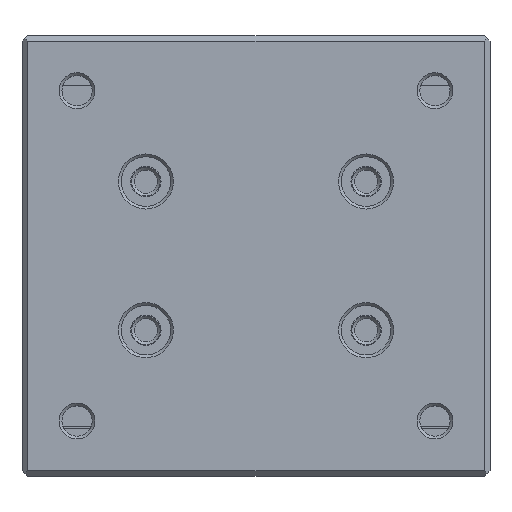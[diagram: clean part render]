
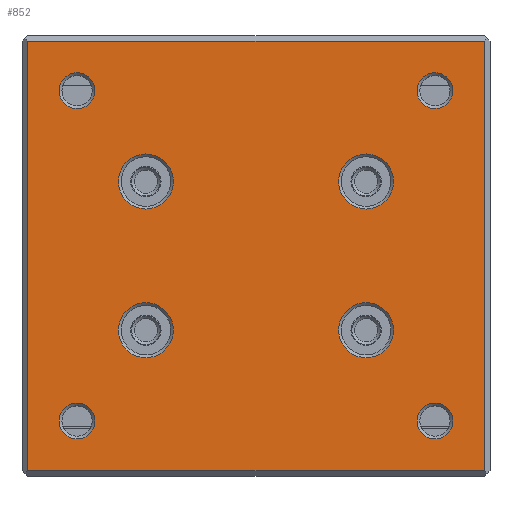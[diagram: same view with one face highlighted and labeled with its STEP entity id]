
A CAD part, top view. The second image highlights one B-rep face of the part: STEP entity #852.
In plain terms, the highlighted planar face has unit normal (0, 0, 1) as drawn and (0, 0, -1) by its records, which use the part's own axes.
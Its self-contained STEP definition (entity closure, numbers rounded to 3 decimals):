
#223=LINE('',#4925,#481);
#232=LINE('',#4943,#490);
#237=LINE('',#4953,#495);
#272=LINE('',#5035,#530);
#481=VECTOR('',#3949,1.);
#490=VECTOR('',#3962,1.);
#495=VECTOR('',#3973,1.);
#530=VECTOR('',#4048,1.);
#852=ADVANCED_FACE('',(#1183,#1184,#1185,#1186,#1187,#1188,#1189,#1190,
#1191),#1047,.F.);
#1047=PLANE('',#3534);
#1183=FACE_BOUND('',#1492,.T.);
#1184=FACE_BOUND('',#1493,.T.);
#1185=FACE_BOUND('',#1494,.T.);
#1186=FACE_BOUND('',#1495,.T.);
#1187=FACE_BOUND('',#1496,.T.);
#1188=FACE_BOUND('',#1497,.T.);
#1189=FACE_BOUND('',#1498,.T.);
#1190=FACE_BOUND('',#1499,.T.);
#1191=FACE_BOUND('',#1500,.T.);
#1492=EDGE_LOOP('',(#1967,#1968,#1969,#1970));
#1493=EDGE_LOOP('',(#1971));
#1494=EDGE_LOOP('',(#1972));
#1495=EDGE_LOOP('',(#1973));
#1496=EDGE_LOOP('',(#1974));
#1497=EDGE_LOOP('',(#1975));
#1498=EDGE_LOOP('',(#1976));
#1499=EDGE_LOOP('',(#1977));
#1500=EDGE_LOOP('',(#1978));
#1967=ORIENTED_EDGE('',*,*,#2970,.T.);
#1968=ORIENTED_EDGE('',*,*,#3016,.T.);
#1969=ORIENTED_EDGE('',*,*,#2975,.T.);
#1970=ORIENTED_EDGE('',*,*,#2961,.T.);
#1971=ORIENTED_EDGE('',*,*,#2924,.T.);
#1972=ORIENTED_EDGE('',*,*,#2923,.T.);
#1973=ORIENTED_EDGE('',*,*,#2922,.T.);
#1974=ORIENTED_EDGE('',*,*,#2921,.T.);
#1975=ORIENTED_EDGE('',*,*,#3017,.T.);
#1976=ORIENTED_EDGE('',*,*,#3018,.T.);
#1977=ORIENTED_EDGE('',*,*,#3019,.T.);
#1978=ORIENTED_EDGE('',*,*,#3020,.T.);
#2607=VERTEX_POINT('',#4837);
#2608=VERTEX_POINT('',#4840);
#2609=VERTEX_POINT('',#4843);
#2610=VERTEX_POINT('',#4846);
#2640=VERTEX_POINT('',#4924);
#2641=VERTEX_POINT('',#4926);
#2647=VERTEX_POINT('',#4942);
#2650=VERTEX_POINT('',#4954);
#2677=VERTEX_POINT('',#5037);
#2678=VERTEX_POINT('',#5039);
#2679=VERTEX_POINT('',#5041);
#2680=VERTEX_POINT('',#5043);
#2921=EDGE_CURVE('',#2607,#2607,#3325,.T.);
#2922=EDGE_CURVE('',#2608,#2608,#3326,.T.);
#2923=EDGE_CURVE('',#2609,#2609,#3327,.T.);
#2924=EDGE_CURVE('',#2610,#2610,#3328,.T.);
#2961=EDGE_CURVE('',#2641,#2640,#223,.T.);
#2970=EDGE_CURVE('',#2640,#2647,#232,.T.);
#2975=EDGE_CURVE('',#2650,#2641,#237,.T.);
#3016=EDGE_CURVE('',#2647,#2650,#272,.T.);
#3017=EDGE_CURVE('',#2677,#2677,#3339,.T.);
#3018=EDGE_CURVE('',#2678,#2678,#3340,.T.);
#3019=EDGE_CURVE('',#2679,#2679,#3341,.T.);
#3020=EDGE_CURVE('',#2680,#2680,#3342,.T.);
#3325=CIRCLE('',#3482,3.25);
#3326=CIRCLE('',#3484,3.25);
#3327=CIRCLE('',#3486,5.);
#3328=CIRCLE('',#3488,5.);
#3339=CIRCLE('',#3530,3.25);
#3340=CIRCLE('',#3531,5.);
#3341=CIRCLE('',#3532,5.);
#3342=CIRCLE('',#3533,3.25);
#3482=AXIS2_PLACEMENT_3D('',#4836,#3871,#3872);
#3484=AXIS2_PLACEMENT_3D('',#4839,#3875,#3876);
#3486=AXIS2_PLACEMENT_3D('',#4842,#3879,#3880);
#3488=AXIS2_PLACEMENT_3D('',#4845,#3883,#3884);
#3530=AXIS2_PLACEMENT_3D('',#5036,#4049,#4050);
#3531=AXIS2_PLACEMENT_3D('',#5038,#4051,#4052);
#3532=AXIS2_PLACEMENT_3D('',#5040,#4053,#4054);
#3533=AXIS2_PLACEMENT_3D('',#5042,#4055,#4056);
#3534=AXIS2_PLACEMENT_3D('',#5044,#4057,#4058);
#3871=DIRECTION('',(0.,0.,1.));
#3872=DIRECTION('',(1.,0.,0.));
#3875=DIRECTION('',(0.,0.,1.));
#3876=DIRECTION('',(1.,0.,0.));
#3879=DIRECTION('',(0.,0.,1.));
#3880=DIRECTION('',(1.,0.,0.));
#3883=DIRECTION('',(0.,0.,1.));
#3884=DIRECTION('',(1.,0.,0.));
#3949=DIRECTION('',(0.,1.,0.));
#3962=DIRECTION('',(1.,0.,0.));
#3973=DIRECTION('',(-1.,0.,0.));
#4048=DIRECTION('',(0.,-1.,0.));
#4049=DIRECTION('',(0.,0.,1.));
#4050=DIRECTION('',(1.,0.,0.));
#4051=DIRECTION('',(0.,0.,1.));
#4052=DIRECTION('',(1.,0.,0.));
#4053=DIRECTION('',(0.,0.,1.));
#4054=DIRECTION('',(1.,0.,0.));
#4055=DIRECTION('',(0.,0.,1.));
#4056=DIRECTION('',(1.,0.,0.));
#4057=DIRECTION('',(0.,0.,1.));
#4058=DIRECTION('',(1.,0.,0.));
#4836=CARTESIAN_POINT('',(30.,30.,0.));
#4837=CARTESIAN_POINT('',(33.25,30.,0.));
#4839=CARTESIAN_POINT('',(30.,-30.,0.));
#4840=CARTESIAN_POINT('',(33.25,-30.,0.));
#4842=CARTESIAN_POINT('',(42.5,-13.5,0.));
#4843=CARTESIAN_POINT('',(47.5,-13.5,0.));
#4845=CARTESIAN_POINT('',(42.5,13.5,0.));
#4846=CARTESIAN_POINT('',(47.5,13.5,0.));
#4924=CARTESIAN_POINT('',(21.,39.,0.));
#4925=CARTESIAN_POINT('',(21.,-39.,0.));
#4926=CARTESIAN_POINT('',(21.,-39.,0.));
#4942=CARTESIAN_POINT('',(104.,39.,0.));
#4943=CARTESIAN_POINT('',(21.,39.,0.));
#4953=CARTESIAN_POINT('',(144.,-39.,0.));
#4954=CARTESIAN_POINT('',(104.,-39.,0.));
#5035=CARTESIAN_POINT('',(104.,39.,0.));
#5036=CARTESIAN_POINT('',(95.,30.,0.));
#5037=CARTESIAN_POINT('',(98.25,30.,0.));
#5038=CARTESIAN_POINT('',(82.5,13.5,0.));
#5039=CARTESIAN_POINT('',(87.5,13.5,0.));
#5040=CARTESIAN_POINT('',(82.5,-13.5,0.));
#5041=CARTESIAN_POINT('',(87.5,-13.5,0.));
#5042=CARTESIAN_POINT('',(95.,-30.,0.));
#5043=CARTESIAN_POINT('',(98.25,-30.,0.));
#5044=CARTESIAN_POINT('',(20.,0.,0.));
